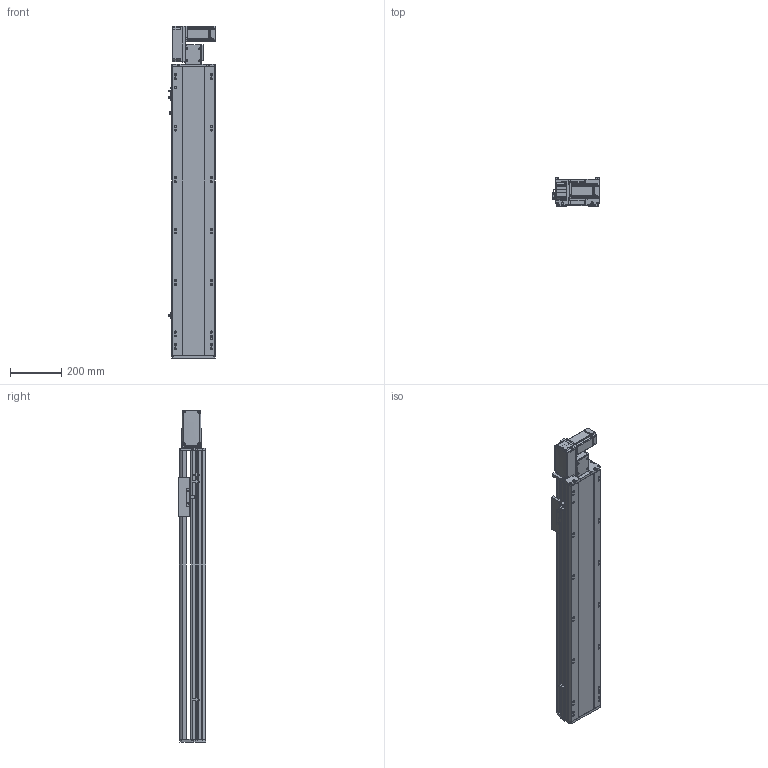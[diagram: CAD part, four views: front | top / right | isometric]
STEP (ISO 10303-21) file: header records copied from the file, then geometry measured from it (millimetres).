
FILE_DESCRIPTION (( 'STEP AP214' ), '1' );
FILE_NAME ('RTB17S-XX-850-L-M40-C4.STEP', '2025-12-11T05:33:06', ( '' ), ( '' ), 'SwSTEP 2.0', 'SolidWorks 2018', '' );
FILE_SCHEMA (( 'AUTOMOTIVE_DESIGN' ));
Length unit declared in the file: millimetre
Products named in the file (14): RMP17S-L-014-T20--皮带座^RTB17S-L-皮带座装配-400W_RTB17S-XX-XX-L-M40-C4（方程式）; RTB17-R-011底座^RTB17S-XX-XX-L-M40-C4（方程式）; RTH13-BL-012感应片外置^RTB17S-XX-XX-L-M40-C4（方程式）; RTB17S-L-007上盖^RTB17S-XX-XX-L-M40-C4（方程式）; RTB17S-L-004丝杆螺母连接座^RTB17S-XX-XX-L-M40-C4（方程式）; RTB17S-L-001侧面板^RTB17S-XX-XX-L-M40-C4（方程式）; OMRON EE-SX672 传感器^RTB17S-XX-XX-L-M40-C4（方程式）; RTB17S-L-皮带座装配-400W^RTB17S-XX-XX-L-M40-C4（方程式）; RTB17S-XX-850-L-M40-C4; RTB14-L-018P^RTB17S-L-皮带座装配-400W_RTB17S-XX-XX-L-M40-C4（方程式）; RTB14-L-017P^RTB17S-L-皮带座装配-400W_RTB17S-XX-XX-L-M40-C4（方程式）; RTB14-L-008-M20--电机板^RTB17S-L-皮带座装配-400W_RTB17S-XX-XX-L-M40-C4（方程式）; 400W伺服电机^RTB17S-XX-XX-L-M40-C4（方程式）; RTB14-L-005P--轴承塑胶压盖^RTB17S-L-皮带座装配-400W_RTB17S-XX-XX-L-M40-C4（方程式）
Assembly tree (16 placements, depth 3):
  RTB17S-XX-850-L-M40-C4
    RTB17-R-011底座^RTB17S-XX-XX-L-M40-C4（方程式）
    RTB17S-L-007上盖^RTB17S-XX-XX-L-M40-C4（方程式）
    OMRON EE-SX672 传感器^RTB17S-XX-XX-L-M40-C4（方程式）  x3
    RTB17S-L-001侧面板^RTB17S-XX-XX-L-M40-C4（方程式）
    400W伺服电机^RTB17S-XX-XX-L-M40-C4（方程式）
    RTB17S-L-004丝杆螺母连接座^RTB17S-XX-XX-L-M40-C4（方程式）
    RTH13-BL-012感应片外置^RTB17S-XX-XX-L-M40-C4（方程式）
    RTB17S-L-皮带座装配-400W^RTB17S-XX-XX-L-M40-C4（方程式）
      RMP17S-L-014-T20--皮带座^RTB17S-L-皮带座装配-400W_RTB17S-XX-XX-L-M40-C4（方程式）
      RTB14-L-005P--轴承塑胶压盖^RTB17S-L-皮带座装配-400W_RTB17S-XX-XX-L-M40-C4（方程式）
      RTB14-L-008-M20--电机板^RTB17S-L-皮带座装配-400W_RTB17S-XX-XX-L-M40-C4（方程式）
      RTB14-L-017P^RTB17S-L-皮带座装配-400W_RTB17S-XX-XX-L-M40-C4（方程式）  x2
      RTB14-L-018P^RTB17S-L-皮带座装配-400W_RTB17S-XX-XX-L-M40-C4（方程式）
Bounding box: 186 x 108 x 1291 mm (x, y, z)
Volume: 11145888.7 mm3; surface area: 1366469.8 mm2
Topology: 15 solids, 15 shells, 2205 faces, 6087 edges, 3969 vertices
Faces by surface type: plane 1068, cylinder 689, bspline 301, cone 139, torus 8
Entity records: 62633 total; most frequent: CARTESIAN_POINT 17492, ORIENTED_EDGE 9018, DIRECTION 8396, EDGE_CURVE 4509, VERTEX_POINT 2957, AXIS2_PLACEMENT_3D 2887, VECTOR 2622, LINE 2622
